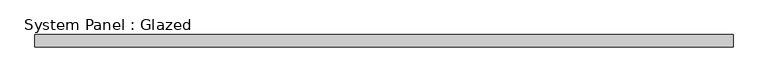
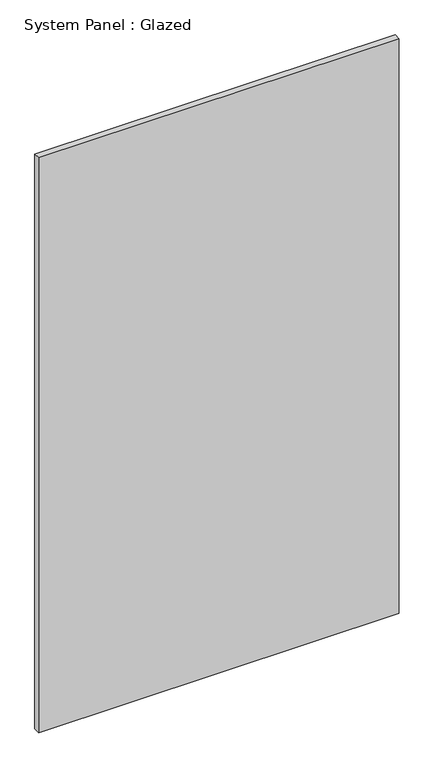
"""IFC4 building model written with IfcOpenShell, lengths in millimetres: plate geometry, System Panel : Glazed."""

import ifcopenshell
import ifcopenshell.guid

model = None  # the IFC model being written
_history = None  # IfcOwnerHistory: only IFC2X3 demands one
_inside = {}  # id of a spatial element -> (the spatial element, [elements in it])
_under = {}  # id of a project, library or spatial element -> (it, [spatial elements below it])
_declared = {}  # id of a project -> (the project, [libraries it declares])
_typed = {}  # id of a type object -> (the type object, [elements of that type])
_made_of = {}  # id of a material, layer set ... -> (it, [elements and type objects made of it])


def new_model(schema):
    """Start an empty IFC model of exactly this schema.

    Asked for "IFC4X3", IfcOpenShell would pick the latest addendum, in which some entities
    have other attributes; the version numbers below select the first issue.
    IFC2X3 requires an IfcOwnerHistory on every rooted entity: one is made here for all.
    """
    global model, _history
    if schema == "IFC4X3":
        model = ifcopenshell.file(schema_version=(4, 3, 0, 0))
    else:
        model = ifcopenshell.file(schema=schema)
    _inside.clear()
    _under.clear()
    _declared.clear()
    _typed.clear()
    _made_of.clear()
    _history = None
    if model.schema == "IFC2X3":
        org = make("IfcOrganization", Name="unknown")
        user = make(
            "IfcPersonAndOrganization",
            ThePerson=make("IfcPerson", FamilyName="unknown"),
            TheOrganization=org,
        )
        app = make(
            "IfcApplication",
            ApplicationDeveloper=org,
            Version="unknown",
            ApplicationFullName="unknown",
            ApplicationIdentifier="unknown",
        )
        _history = make(
            "IfcOwnerHistory",
            OwningUser=user,
            OwningApplication=app,
            ChangeAction="ADDED",
            CreationDate=0,
        )
    return model


def make(cls, **values):
    """One entity of the class cls with the attributes given. An attribute that is None is left unset."""
    return model.create_entity(
        cls, **{name: value for name, value in values.items() if value is not None}
    )


def rooted(cls, **values):
    """An entity with a GlobalId (a new one), such as an element, a storey or a relation."""
    return make(cls, GlobalId=ifcopenshell.guid.new(), OwnerHistory=_history, **values)


def si_unit(unit_type, name, prefix=None):
    """IfcSIUnit, for example si_unit("LENGTHUNIT", "METRE", prefix="MILLI")."""
    return make("IfcSIUnit", UnitType=unit_type, Prefix=prefix, Name=name)


def assignment(units):
    """IfcUnitAssignment: the units of a project."""
    return None if units is None else make("IfcUnitAssignment", Units=units)


def point(xyz):
    """IfcCartesianPoint."""
    return None if xyz is None else make("IfcCartesianPoint", Coordinates=xyz)


def direction(xyz):
    """IfcDirection."""
    return None if xyz is None else make("IfcDirection", DirectionRatios=xyz)


def frame(location, z_axis=None, x_axis=None):
    """IfcAxis2Placement3D, a coordinate frame: its origin and axes. An axis left out is left unset."""
    return make(
        "IfcAxis2Placement3D",
        Location=point(location),
        Axis=direction(z_axis),
        RefDirection=direction(x_axis),
    )


def origin():
    """The frame at (0, 0, 0) with its axes left unset."""
    return frame((0.0, 0.0, 0.0))


def origin_with_axes():
    """The frame at (0, 0, 0) with the z axis (0, 0, 1) and the x axis (1, 0, 0) written out."""
    return frame((0.0, 0.0, 0.0), z_axis=(0.0, 0.0, 1.0), x_axis=(1.0, 0.0, 0.0))


def place(relative_to, where):
    """IfcLocalPlacement: puts the frame where relative to a parent placement (None: the world)."""
    return make(
        "IfcLocalPlacement", PlacementRelTo=relative_to, RelativePlacement=where
    )


def context(
    kind, dimensions, precision=None, world=None, true_north=None, identifier=None
):
    """IfcGeometricRepresentationContext, for example the 3D "Model" context."""
    return make(
        "IfcGeometricRepresentationContext",
        ContextIdentifier=identifier,
        ContextType=kind,
        CoordinateSpaceDimension=dimensions,
        Precision=precision,
        WorldCoordinateSystem=world,
        TrueNorth=true_north,
    )


def project(units=None, contexts=None):
    """IfcProject with its units and contexts."""
    return rooted(
        "IfcProject",
        Name="project",
        RepresentationContexts=contexts,
        UnitsInContext=assignment(units),
    )


def spatial(cls, under=None, at=None, **own):
    """A site, building, storey or space (cls), placed at a placement, below another one or the project."""
    s = rooted(cls, ObjectPlacement=at, **own)
    if under is not None:
        _under.setdefault(under.id(), (under, []))[1].append(s)
    return s


def polyline(points):
    """IfcPolyline through the points."""
    return make("IfcPolyline", Points=[point(p) for p in points])


def outline(outer, holes=None, kind="AREA"):
    """IfcArbitraryClosedProfileDef: a profile drawn as a closed curve; with holes, ...WithVoids."""
    if holes is None:
        return make("IfcArbitraryClosedProfileDef", ProfileType=kind, OuterCurve=outer)
    return make(
        "IfcArbitraryProfileDefWithVoids",
        ProfileType=kind,
        OuterCurve=outer,
        InnerCurves=holes,
    )


def extrude(swept, where, along, depth):
    """IfcExtrudedAreaSolid: the profile swept, set in the frame where, extruded along a direction by depth."""
    return make(
        "IfcExtrudedAreaSolid",
        SweptArea=swept,
        Position=where,
        ExtrudedDirection=direction(along),
        Depth=depth,
    )


def shape(context_of_items, identifier, shape_type, items):
    """IfcShapeRepresentation: the items that make up one representation, for example the "Body"."""
    return make(
        "IfcShapeRepresentation",
        ContextOfItems=context_of_items,
        RepresentationIdentifier=identifier,
        RepresentationType=shape_type,
        Items=items,
    )


def source(mapping_origin, context_of_items, identifier, shape_type, items):
    """IfcRepresentationMap: a shape defined once, which mapped items show again and again."""
    return make(
        "IfcRepresentationMap",
        MappingOrigin=mapping_origin,
        MappedRepresentation=shape(context_of_items, identifier, shape_type, items),
    )


def transform(
    local_origin,
    x_axis=None,
    y_axis=None,
    z_axis=None,
    scale=None,
    scale2=None,
    scale3=None,
    uniform=True,
):
    """IfcCartesianTransformationOperator3D, or its non-uniform kind. x_axis, y_axis, z_axis: its Axis1, 2, 3."""
    if uniform:
        return make(
            "IfcCartesianTransformationOperator3D",
            Axis1=direction(x_axis),
            Axis2=direction(y_axis),
            LocalOrigin=point(local_origin),
            Scale=scale,
            Axis3=direction(z_axis),
        )
    return make(
        "IfcCartesianTransformationOperator3DnonUniform",
        Axis1=direction(x_axis),
        Axis2=direction(y_axis),
        LocalOrigin=point(local_origin),
        Scale=scale,
        Axis3=direction(z_axis),
        Scale2=scale2,
        Scale3=scale3,
    )


def mapped(mapping_source, mapping_target):
    """IfcMappedItem: shows the shape of a source again, moved by a transform."""
    return make(
        "IfcMappedItem", MappingSource=mapping_source, MappingTarget=mapping_target
    )


def made_of(thing, what):
    """Note that an element or type object is made of a material, layer set ...; save() writes the relation."""
    if what is not None:
        _made_of.setdefault(what.id(), (what, []))[1].append(thing)
    return thing


def element(
    cls,
    number,
    at=None,
    inside=None,
    cuts=None,
    type_object=None,
    material=None,
    context=None,
    identifier="Body",
    shape_type=None,
    held_by="IfcProductDefinitionShape",
    body=None,
    shapes=None,
    **own,
):
    """One element of the class cls, such as IfcWall. Its Tag is "e" and its number.

    at: its placement. inside: the storey or other place that contains it. cuts: it is an
    opening in that element (IfcRelVoidsElement). A single representation is given by context,
    identifier, shape_type and body (its items); several are given by shapes. held_by: the class
    of the entity that holds the representations. save() writes the other relations.
    """
    e = rooted(cls, Tag="e%d" % number, ObjectPlacement=at, **own)
    if body is not None:
        shapes = [shape(context, identifier, shape_type, body)]
    if shapes is not None:
        e.Representation = make(held_by, Representations=shapes)
    if inside is not None:
        _inside.setdefault(inside.id(), (inside, []))[1].append(e)
    if cuts is not None:
        rooted(
            "IfcRelVoidsElement", RelatingBuildingElement=cuts, RelatedOpeningElement=e
        )
    if type_object is not None:
        _typed.setdefault(type_object.id(), (type_object, []))[1].append(e)
    return made_of(e, material)


def aggregate(whole, parts):
    """IfcRelAggregates: a whole, such as a stair, and the parts it consists of."""
    return rooted("IfcRelAggregates", RelatingObject=whole, RelatedObjects=parts)


def save(model, path):
    """Write the relations noted so far, then the file.

    IfcRelAggregates (storeys below a building ...), IfcRelContainedInSpatialStructure (elements
    in a storey), IfcRelDefinesByType, IfcRelAssociatesMaterial and IfcRelDeclares: one each for
    every whole, place, type object, material and project.
    """
    for whole, parts in _under.values():
        aggregate(whole, parts)
    for where, things in _inside.values():
        rooted(
            "IfcRelContainedInSpatialStructure",
            RelatedElements=things,
            RelatingStructure=where,
        )
    for kind, things in _typed.values():
        rooted("IfcRelDefinesByType", RelatedObjects=things, RelatingType=kind)
    for what, things in _made_of.values():
        rooted("IfcRelAssociatesMaterial", RelatedObjects=things, RelatingMaterial=what)
    for by, libraries in _declared.values():
        rooted("IfcRelDeclares", RelatingContext=by, RelatedDefinitions=libraries)
    model.write(path)


def system_panel_glazed_98ac4f7d(model_context):
    return source(origin(), model_context, "Body", "SweptSolid", [
        extrude(outline(polyline([(708.7366102, -49.5), (-708.7366102, -49.5), (-708.7366102, -24.5), (708.7366102, -24.5), (708.7366102, -49.5)])), origin_with_axes(), (0.0, 0.0, 1.0), 2390.0),
    ])


if __name__ == "__main__":
    model = new_model("IFC4")
    model_context = context("Model", 3, world=origin())
    ifc_project = project(units=[si_unit("LENGTHUNIT", "METRE", prefix="MILLI")], contexts=[model_context])
    site = spatial("IfcSite", under=ifc_project)
    building = spatial("IfcBuilding", under=site)
    placement = place(None, origin())
    system_panel_glazed_shape = system_panel_glazed_98ac4f7d(model_context)
    element("IfcPlate", 1, ObjectType="System Panel : Glazed", at=placement, inside=building, context=model_context, shape_type="MappedRepresentation", body=[
        mapped(system_panel_glazed_shape, transform((0.0, 0.0, 0.0), x_axis=(1.0, 0.0, 0.0), y_axis=(0.0, 1.0, 0.0), z_axis=(0.0, 0.0, 1.0))),
    ])
    save(model, "model.ifc")
